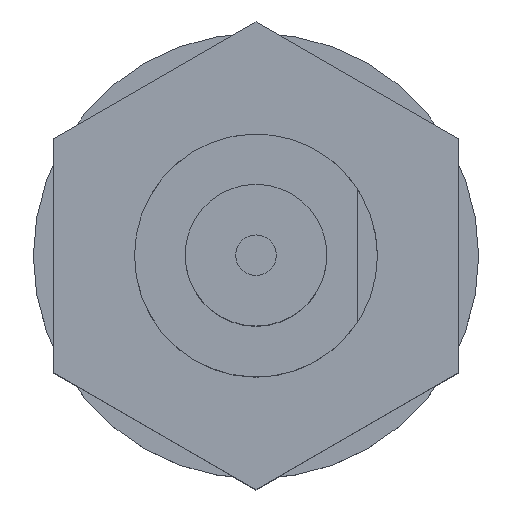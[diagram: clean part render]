
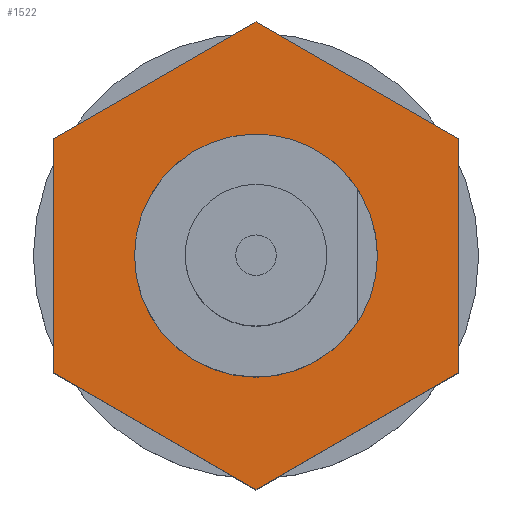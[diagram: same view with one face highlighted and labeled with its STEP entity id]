
A CAD part, top view. The second image highlights one B-rep face of the part: STEP entity #1522.
In plain terms, the highlighted planar face has unit normal (0, 0, 1) as drawn and (-1, 0, 0) by its records, which use the part's own axes.
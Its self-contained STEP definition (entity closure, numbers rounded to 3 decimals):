
#1079 = LINE ( 'NONE', #1081, #1080 ) ;
#1080 = VECTOR ( 'NONE', #1178, 1000. ) ;
#1081 = CARTESIAN_POINT ( 'NONE',  ( 8., 2.887, 5. ) ) ;
#1094 = DIRECTION ( 'NONE',  ( 0., -1., 0. ) ) ;
#1095 = DIRECTION ( 'NONE',  ( -1., 0., 0. ) ) ;
#1096 = CARTESIAN_POINT ( 'NONE',  ( 8., 0., 0. ) ) ;
#1097 = AXIS2_PLACEMENT_3D ( 'NONE', #1096, #1095, #1094 ) ;
#1102 = CIRCLE ( 'NONE', #1097, 3. ) ;
#1105 = CARTESIAN_POINT ( 'NONE',  ( 8., 3., 0. ) ) ;
#1150 = DIRECTION ( 'NONE',  ( 0., -0.5, -0.866 ) ) ;
#1151 = VECTOR ( 'NONE', #1150, 1000. ) ;
#1152 = CARTESIAN_POINT ( 'NONE',  ( 8., 5.774, 0. ) ) ;
#1153 = LINE ( 'NONE', #1152, #1151 ) ;
#1168 = CARTESIAN_POINT ( 'NONE',  ( 8., 5.774, 0. ) ) ;
#1169 = CARTESIAN_POINT ( 'NONE',  ( 8., 2.887, 5. ) ) ;
#1177 = CARTESIAN_POINT ( 'NONE',  ( 8., 2.887, -5. ) ) ;
#1178 = DIRECTION ( 'NONE',  ( 0., 0.5, -0.866 ) ) ;
#1201 = DIRECTION ( 'NONE',  ( 0., 1., 0. ) ) ;
#1202 = DIRECTION ( 'NONE',  ( 1., 0., 0. ) ) ;
#1203 = CARTESIAN_POINT ( 'NONE',  ( 8., 0., 10. ) ) ;
#1204 = AXIS2_PLACEMENT_3D ( 'NONE', #1203, #1202, #1201 ) ;
#1205 = PLANE ( 'NONE',  #1204 ) ;
#1206 = FACE_BOUND ( 'NONE', #1545, .T. ) ;
#1207 = FACE_OUTER_BOUND ( 'NONE', #1510, .T. ) ;
#1208 = CARTESIAN_POINT ( 'NONE',  ( 8., -3., 0. ) ) ;
#1213 = CARTESIAN_POINT ( 'NONE',  ( 8., -2.887, -5. ) ) ;
#1214 = CARTESIAN_POINT ( 'NONE',  ( 8., -5.774, 0. ) ) ;
#1215 = CARTESIAN_POINT ( 'NONE',  ( 8., -2.887, 5. ) ) ;
#1216 = DIRECTION ( 'NONE',  ( 0., 0.5, 0.866 ) ) ;
#1217 = VECTOR ( 'NONE', #1216, 1000. ) ;
#1218 = CARTESIAN_POINT ( 'NONE',  ( 8., -5.774, 0. ) ) ;
#1219 = LINE ( 'NONE', #1218, #1217 ) ;
#1220 = DIRECTION ( 'NONE',  ( 0., -1., 0. ) ) ;
#1221 = DIRECTION ( 'NONE',  ( -1., 0., 0. ) ) ;
#1222 = CARTESIAN_POINT ( 'NONE',  ( 8., 0., 0. ) ) ;
#1223 = AXIS2_PLACEMENT_3D ( 'NONE', #1222, #1221, #1220 ) ;
#1224 = CIRCLE ( 'NONE', #1223, 3. ) ;
#1230 = DIRECTION ( 'NONE',  ( 0., 1., 0. ) ) ;
#1231 = VECTOR ( 'NONE', #1230, 1000. ) ;
#1232 = CARTESIAN_POINT ( 'NONE',  ( 8., -2.887, 5. ) ) ;
#1233 = LINE ( 'NONE', #1232, #1231 ) ;
#1272 = DIRECTION ( 'NONE',  ( 0., -0.5, 0.866 ) ) ;
#1273 = VECTOR ( 'NONE', #1272, 1000. ) ;
#1274 = CARTESIAN_POINT ( 'NONE',  ( 8., -2.887, -5. ) ) ;
#1275 = LINE ( 'NONE', #1274, #1273 ) ;
#1276 = DIRECTION ( 'NONE',  ( 0., -1., 0. ) ) ;
#1277 = VECTOR ( 'NONE', #1276, 1000. ) ;
#1278 = CARTESIAN_POINT ( 'NONE',  ( 8., 2.887, -5. ) ) ;
#1279 = LINE ( 'NONE', #1278, #1277 ) ;
#1480 = VERTEX_POINT ( 'NONE', #1105 ) ;
#1490 = EDGE_CURVE ( 'NONE', #1480, #1520, #1102, .T. ) ;
#1495 = ORIENTED_EDGE ( 'NONE', *, *, #1516, .T. ) ;
#1501 = ORIENTED_EDGE ( 'NONE', *, *, #1502, .T. ) ;
#1502 = EDGE_CURVE ( 'NONE', #1505, #1506, #1079, .T. ) ;
#1503 = VERTEX_POINT ( 'NONE', #1177 ) ;
#1505 = VERTEX_POINT ( 'NONE', #1169 ) ;
#1506 = VERTEX_POINT ( 'NONE', #1168 ) ;
#1510 = EDGE_LOOP ( 'NONE', ( #1501, #1495, #1535, #1559, #1555, #1543 ) ) ;
#1516 = EDGE_CURVE ( 'NONE', #1506, #1503, #1153, .T. ) ;
#1518 = VERTEX_POINT ( 'NONE', #1213 ) ;
#1520 = VERTEX_POINT ( 'NONE', #1208 ) ;
#1522 = ADVANCED_FACE ( 'NONE', ( #1207, #1206 ), #1205, .F. ) ;
#1535 = ORIENTED_EDGE ( 'NONE', *, *, #1556, .T. ) ;
#1543 = ORIENTED_EDGE ( 'NONE', *, *, #1544, .T. ) ;
#1544 = EDGE_CURVE ( 'NONE', #1553, #1505, #1233, .T. ) ;
#1545 = EDGE_LOOP ( 'NONE', ( #1546, #1547 ) ) ;
#1546 = ORIENTED_EDGE ( 'NONE', *, *, #1490, .F. ) ;
#1547 = ORIENTED_EDGE ( 'NONE', *, *, #1550, .F. ) ;
#1550 = EDGE_CURVE ( 'NONE', #1520, #1480, #1224, .T. ) ;
#1552 = EDGE_CURVE ( 'NONE', #1554, #1553, #1219, .T. ) ;
#1553 = VERTEX_POINT ( 'NONE', #1215 ) ;
#1554 = VERTEX_POINT ( 'NONE', #1214 ) ;
#1555 = ORIENTED_EDGE ( 'NONE', *, *, #1552, .T. ) ;
#1556 = EDGE_CURVE ( 'NONE', #1503, #1518, #1279, .T. ) ;
#1558 = EDGE_CURVE ( 'NONE', #1518, #1554, #1275, .T. ) ;
#1559 = ORIENTED_EDGE ( 'NONE', *, *, #1558, .T. ) ;
